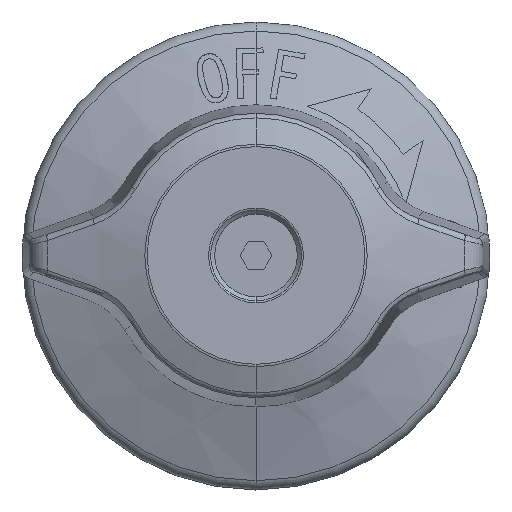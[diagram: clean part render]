
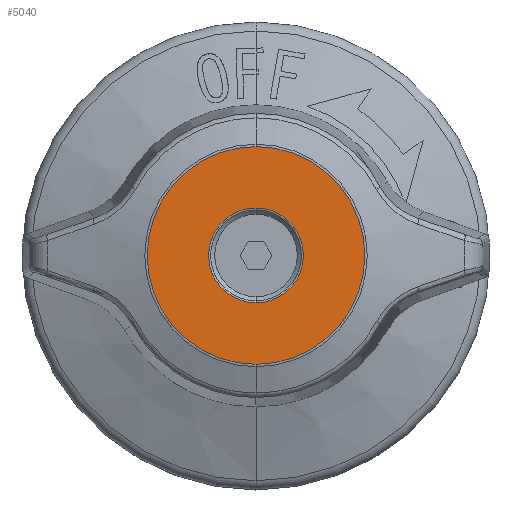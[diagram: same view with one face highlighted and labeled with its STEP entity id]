
A CAD part, top view. The second image highlights one B-rep face of the part: STEP entity #5040.
In plain terms, the highlighted planar face has unit normal (0, 0, 1).
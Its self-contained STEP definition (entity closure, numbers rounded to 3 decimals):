
#8 = VERTEX_POINT ( 'NONE', #5721 ) ;
#72 = EDGE_CURVE ( 'NONE', #8, #8679, #9113, .T. ) ;
#423 = CIRCLE ( 'NONE', #8853, 3.443 ) ;
#522 = CIRCLE ( 'NONE', #5760, 3.443 ) ;
#565 = ORIENTED_EDGE ( 'NONE', *, *, #4076, .T. ) ;
#609 = DIRECTION ( 'NONE',  ( 0., 0., -1. ) ) ;
#747 = ORIENTED_EDGE ( 'NONE', *, *, #72, .T. ) ;
#1004 = AXIS2_PLACEMENT_3D ( 'NONE', #3529, #3436, #6475 ) ;
#1116 = ORIENTED_EDGE ( 'NONE', *, *, #8385, .T. ) ;
#1951 = CIRCLE ( 'NONE', #1004, 7.912 ) ;
#1987 = EDGE_LOOP ( 'NONE', ( #2468, #747 ) ) ;
#2048 = DIRECTION ( 'NONE',  ( 0., 0., 1. ) ) ;
#2159 = CARTESIAN_POINT ( 'NONE',  ( 0., 0., 27.348 ) ) ;
#2367 = FACE_OUTER_BOUND ( 'NONE', #1987, .T. ) ;
#2468 = ORIENTED_EDGE ( 'NONE', *, *, #7616, .T. ) ;
#2605 = DIRECTION ( 'NONE',  ( 0., 1., 0. ) ) ;
#2736 = CARTESIAN_POINT ( 'NONE',  ( 0., 0., 27.348 ) ) ;
#3199 = AXIS2_PLACEMENT_3D ( 'NONE', #5495, #3952, #7828 ) ;
#3436 = DIRECTION ( 'NONE',  ( 0., 0., 1. ) ) ;
#3501 = EDGE_LOOP ( 'NONE', ( #1116, #565 ) ) ;
#3529 = CARTESIAN_POINT ( 'NONE',  ( 0., 0., 27.348 ) ) ;
#3952 = DIRECTION ( 'NONE',  ( 0., 0., -1. ) ) ;
#4076 = EDGE_CURVE ( 'NONE', #7886, #7234, #423, .T. ) ;
#4701 = PLANE ( 'NONE',  #3199 ) ;
#4837 = FACE_BOUND ( 'NONE', #3501, .T. ) ;
#5040 = ADVANCED_FACE ( 'NONE', ( #4837, #2367 ), #4701, .F. ) ;
#5447 = AXIS2_PLACEMENT_3D ( 'NONE', #2736, #2048, #8759 ) ;
#5495 = CARTESIAN_POINT ( 'NONE',  ( 0., 0., 27.348 ) ) ;
#5721 = CARTESIAN_POINT ( 'NONE',  ( 0., -7.912, 27.348 ) ) ;
#5760 = AXIS2_PLACEMENT_3D ( 'NONE', #2159, #609, #8215 ) ;
#5911 = CARTESIAN_POINT ( 'NONE',  ( 0., -3.443, 27.348 ) ) ;
#6381 = DIRECTION ( 'NONE',  ( 0., 0., -1. ) ) ;
#6475 = DIRECTION ( 'NONE',  ( 0., 1., 0. ) ) ;
#7134 = CARTESIAN_POINT ( 'NONE',  ( 0., 3.443, 27.348 ) ) ;
#7234 = VERTEX_POINT ( 'NONE', #7134 ) ;
#7616 = EDGE_CURVE ( 'NONE', #8679, #8, #1951, .T. ) ;
#7828 = DIRECTION ( 'NONE',  ( 0., 1., 0. ) ) ;
#7886 = VERTEX_POINT ( 'NONE', #5911 ) ;
#8215 = DIRECTION ( 'NONE',  ( 0., 1., 0. ) ) ;
#8385 = EDGE_CURVE ( 'NONE', #7234, #7886, #522, .T. ) ;
#8679 = VERTEX_POINT ( 'NONE', #9210 ) ;
#8722 = CARTESIAN_POINT ( 'NONE',  ( 0., 0., 27.348 ) ) ;
#8759 = DIRECTION ( 'NONE',  ( 0., 1., 0. ) ) ;
#8853 = AXIS2_PLACEMENT_3D ( 'NONE', #8722, #6381, #2605 ) ;
#9113 = CIRCLE ( 'NONE', #5447, 7.912 ) ;
#9210 = CARTESIAN_POINT ( 'NONE',  ( 0., 7.912, 27.348 ) ) ;
